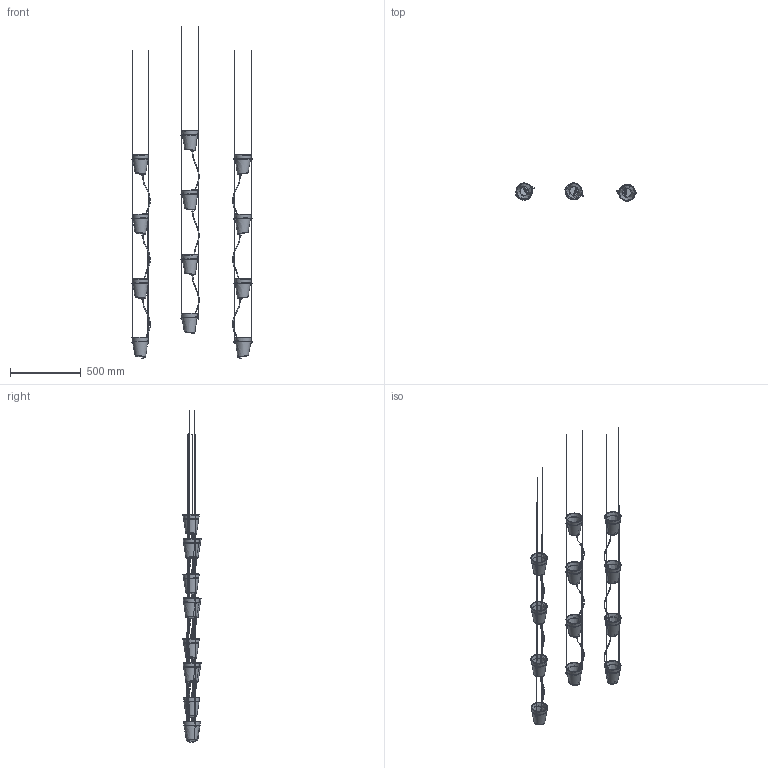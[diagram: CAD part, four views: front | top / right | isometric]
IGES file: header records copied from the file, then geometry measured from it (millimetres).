
Global section: file name: C:\Users\colombo_c\Desktop\Danese\Sito\3D mancanti\Window garden_pendant\Window garden_pendant.igs; native system: Rhinoceros ( Apr 16 2024 ); preprocessor: Trout Lake IGES 012 Apr 16 2024; date: 250717.100647; units: millimetre
Bounding box: 849.57 x 128.43 x 2346.74 mm (x, y, z)
Surface area: 1197412.8 mm2 (no closed solid volume)
Topology: 0 solids, 0 shells, 2106 faces, 20604 edges, 20524 vertices
Faces by surface type: bspline 2106
